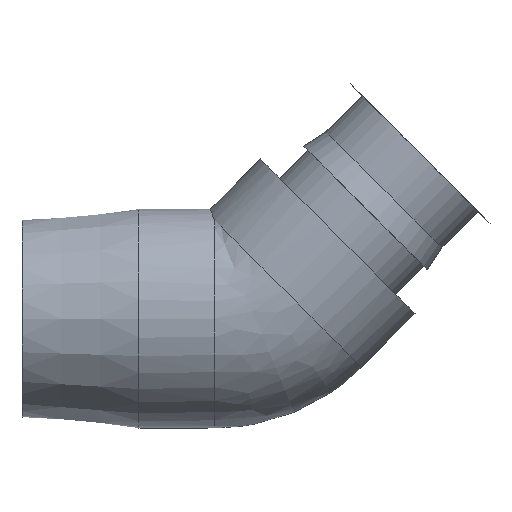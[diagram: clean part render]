
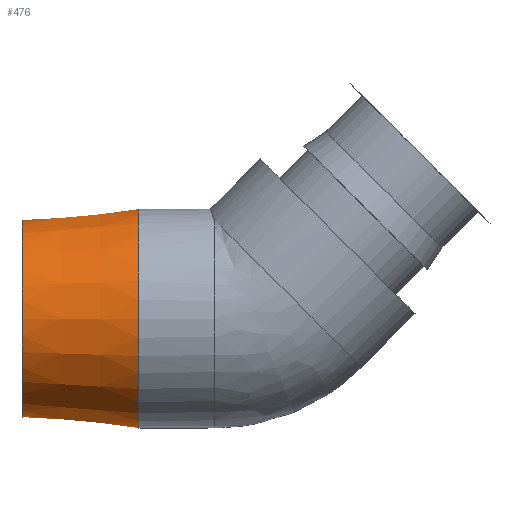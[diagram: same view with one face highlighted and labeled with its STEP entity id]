
A CAD part, front view. The second image highlights one B-rep face of the part: STEP entity #476.
In plain terms, the highlighted conical face has half-angle 5.346 degrees and reference radius 21.114 mm.
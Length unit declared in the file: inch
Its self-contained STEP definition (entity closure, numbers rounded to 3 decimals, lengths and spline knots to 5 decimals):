
#17=B_SPLINE_CURVE_WITH_KNOTS('',3,(#902,#903,#904,#905,#906,#907,#908,
#909,#910,#911),.UNSPECIFIED.,.F.,.F.,(4,2,2,2,4),(0.,0.34923,
0.69846,1.05094,1.40342),.UNSPECIFIED.);
#18=B_SPLINE_CURVE_WITH_KNOTS('',3,(#912,#913,#914,#915,#916,#917,#918,
#919,#920,#921,#922,#923,#924,#925,#926,#927,#928,#929,#930,#931,#932,#933,
#934,#935,#936,#937),.UNSPECIFIED.,.F.,.F.,(4,2,2,2,2,2,2,2,2,2,2,2,4),
(1.40342,1.7559,2.10838,2.45761,2.80684,
3.18991,3.57298,3.94474,4.31649,4.68825,
5.06001,5.44308,5.82615),.UNSPECIFIED.);
#24=CONICAL_SURFACE('',#569,0.83125,0.093);
#39=FACE_BOUND('',#153,.T.);
#55=LINE('',#968,#71);
#71=VECTOR('',#733,0.83125);
#111=FACE_OUTER_BOUND('',#152,.T.);
#152=EDGE_LOOP('',(#427,#428,#429,#430,#431,#432));
#153=EDGE_LOOP('',(#433,#434));
#187=CIRCLE('',#555,0.875);
#188=CIRCLE('',#556,0.875);
#195=CIRCLE('',#567,0.7875);
#196=CIRCLE('',#568,0.7875);
#231=VERTEX_POINT('',#900);
#232=VERTEX_POINT('',#901);
#233=VERTEX_POINT('',#940);
#234=VERTEX_POINT('',#942);
#241=VERTEX_POINT('',#963);
#242=VERTEX_POINT('',#964);
#290=EDGE_CURVE('',#231,#232,#17,.T.);
#291=EDGE_CURVE('',#232,#231,#18,.T.);
#294=EDGE_CURVE('',#233,#234,#187,.T.);
#295=EDGE_CURVE('',#234,#233,#188,.T.);
#304=EDGE_CURVE('',#241,#242,#195,.T.);
#305=EDGE_CURVE('',#242,#241,#196,.T.);
#306=EDGE_CURVE('',#233,#242,#55,.T.);
#427=ORIENTED_EDGE('',*,*,#295,.F.);
#428=ORIENTED_EDGE('',*,*,#294,.F.);
#429=ORIENTED_EDGE('',*,*,#306,.T.);
#430=ORIENTED_EDGE('',*,*,#305,.T.);
#431=ORIENTED_EDGE('',*,*,#304,.T.);
#432=ORIENTED_EDGE('',*,*,#306,.F.);
#433=ORIENTED_EDGE('',*,*,#290,.T.);
#434=ORIENTED_EDGE('',*,*,#291,.T.);
#476=ADVANCED_FACE('',(#111,#39),#24,.T.);
#555=AXIS2_PLACEMENT_3D('',#943,#701,#702);
#556=AXIS2_PLACEMENT_3D('',#944,#703,#704);
#567=AXIS2_PLACEMENT_3D('',#965,#727,#728);
#568=AXIS2_PLACEMENT_3D('',#966,#729,#730);
#569=AXIS2_PLACEMENT_3D('',#967,#731,#732);
#701=DIRECTION('center_axis',(1.,0.,0.));
#702=DIRECTION('ref_axis',(0.,0.,-1.));
#703=DIRECTION('center_axis',(1.,0.,0.));
#704=DIRECTION('ref_axis',(0.,0.,-1.));
#727=DIRECTION('center_axis',(1.,0.,0.));
#728=DIRECTION('ref_axis',(0.,0.,-1.));
#729=DIRECTION('center_axis',(1.,0.,0.));
#730=DIRECTION('ref_axis',(0.,0.,-1.));
#731=DIRECTION('center_axis',(1.,0.,0.));
#732=DIRECTION('ref_axis',(0.,1.,0.));
#733=DIRECTION('',(-0.996,0.093,0.));
#900=CARTESIAN_POINT('',(-1.32766,0.74802,0.37723));
#901=CARTESIAN_POINT('',(-1.68174,0.80462,0.));
#902=CARTESIAN_POINT('Ctrl Pts',(-1.32766,0.74802,0.37723));
#903=CARTESIAN_POINT('Ctrl Pts',(-1.37329,0.7442,0.3753));
#904=CARTESIAN_POINT('Ctrl Pts',(-1.42147,0.74505,0.36404));
#905=CARTESIAN_POINT('Ctrl Pts',(-1.50897,0.75469,0.32334));
#906=CARTESIAN_POINT('Ctrl Pts',(-1.54834,0.76315,0.29394));
#907=CARTESIAN_POINT('Ctrl Pts',(-1.61029,0.77942,0.22777));
#908=CARTESIAN_POINT('Ctrl Pts',(-1.63716,0.78839,0.18622));
#909=CARTESIAN_POINT('Ctrl Pts',(-1.6729,0.80107,0.09548));
#910=CARTESIAN_POINT('Ctrl Pts',(-1.68174,0.80462,0.04626));
#911=CARTESIAN_POINT('Ctrl Pts',(-1.68174,0.80462,0.));
#912=CARTESIAN_POINT('Ctrl Pts',(-1.68174,0.80462,0.));
#913=CARTESIAN_POINT('Ctrl Pts',(-1.68174,0.80462,-0.04626));
#914=CARTESIAN_POINT('Ctrl Pts',(-1.6729,0.80107,-0.09548));
#915=CARTESIAN_POINT('Ctrl Pts',(-1.63716,0.78839,-0.18622));
#916=CARTESIAN_POINT('Ctrl Pts',(-1.61029,0.77942,-0.22777));
#917=CARTESIAN_POINT('Ctrl Pts',(-1.54834,0.76315,-0.29394));
#918=CARTESIAN_POINT('Ctrl Pts',(-1.50897,0.75469,-0.32334));
#919=CARTESIAN_POINT('Ctrl Pts',(-1.42147,0.74505,-0.36404));
#920=CARTESIAN_POINT('Ctrl Pts',(-1.37329,0.7442,-0.3753));
#921=CARTESIAN_POINT('Ctrl Pts',(-1.2776,0.7522,-0.37934));
#922=CARTESIAN_POINT('Ctrl Pts',(-1.22523,0.76236,-0.37056));
#923=CARTESIAN_POINT('Ctrl Pts',(-1.12997,0.78943,-0.33242));
#924=CARTESIAN_POINT('Ctrl Pts',(-1.08696,0.80597,-0.30308));
#925=CARTESIAN_POINT('Ctrl Pts',(-1.02001,0.83458,-0.23591));
#926=CARTESIAN_POINT('Ctrl Pts',(-0.99105,0.84873,-0.19376));
#927=CARTESIAN_POINT('Ctrl Pts',(-0.95218,0.86843,-0.10023));
#928=CARTESIAN_POINT('Ctrl Pts',(-0.94232,0.87381,-0.04879));
#929=CARTESIAN_POINT('Ctrl Pts',(-0.94232,0.87381,0.04879));
#930=CARTESIAN_POINT('Ctrl Pts',(-0.95218,0.86843,0.10023));
#931=CARTESIAN_POINT('Ctrl Pts',(-0.99105,0.84873,0.19376));
#932=CARTESIAN_POINT('Ctrl Pts',(-1.02001,0.83458,0.23591));
#933=CARTESIAN_POINT('Ctrl Pts',(-1.08696,0.80597,0.30308));
#934=CARTESIAN_POINT('Ctrl Pts',(-1.12997,0.78943,0.33242));
#935=CARTESIAN_POINT('Ctrl Pts',(-1.22523,0.76236,0.37056));
#936=CARTESIAN_POINT('Ctrl Pts',(-1.2776,0.7522,0.37934));
#937=CARTESIAN_POINT('Ctrl Pts',(-1.32766,0.74802,0.37723));
#940=CARTESIAN_POINT('',(-0.92965,-0.875,0.));
#942=CARTESIAN_POINT('',(-0.92965,0.875,0.));
#943=CARTESIAN_POINT('Origin',(-0.92965,0.,
0.));
#944=CARTESIAN_POINT('Origin',(-0.92965,0.,
0.));
#963=CARTESIAN_POINT('',(-1.86465,0.7875,0.));
#964=CARTESIAN_POINT('',(-1.86465,-0.7875,0.));
#965=CARTESIAN_POINT('Origin',(-1.86465,0.,0.));
#966=CARTESIAN_POINT('Origin',(-1.86465,0.,0.));
#967=CARTESIAN_POINT('Origin',(-1.39715,0.,
0.));
#968=CARTESIAN_POINT('',(-1.39715,-0.83125,0.));
